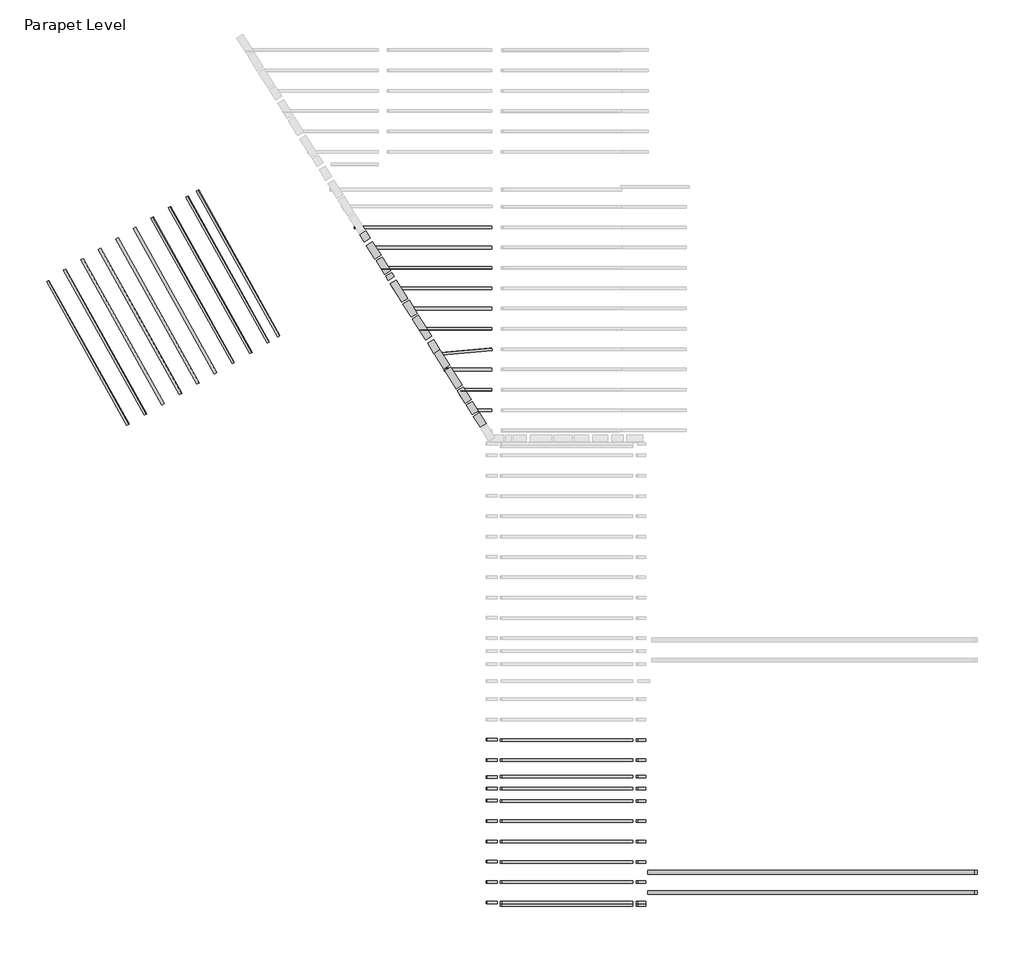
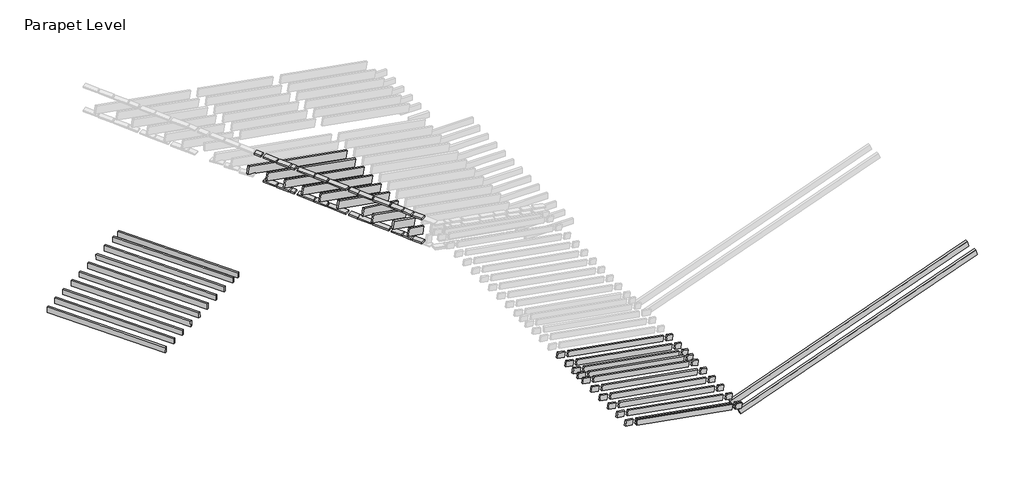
# One storey, part 1 of 4: 79 beams.
"""IFC4 building model written with IfcOpenShell, lengths in millimetres."""

from ifc_helpers import new_model, si_unit, origin, place, context, project, spatial, faceted_brep, transform, mapped, element, save
from components import beam_50x150_21f94889, beam_50x150_4e307baa, beam_50x150_5c7ec585, beam_50x150_e48ab039, beam_50x150_329b2feb, beam_50x150_70297680, beam_50x150_908034af, beam_50x150_4a47f951, beam_50x150_a9835063, beam_50x150_c9c5d9b4, beam_50x150_9a80bcea, beam_50x150_77f3f083, beam_50x225_a9e0d944, beam_50x225_0164bfb9, beam_50x225_bcbebb9e, beam_50x225_e46d5477, beam_50x225_04d71df1, beam_50x225_90cf546c, beam_50x225_c7a64823, beam_50x225_5c907d6b, beam_50x225_0095a40e, beam_50x225_9eec0f42, beam_75x150_3897ce90

model = new_model("IFC4")

# Units and contexts
model_context = context("Model", 3, world=origin())
ifc_project = project(units=[si_unit("LENGTHUNIT", "METRE", prefix="MILLI")], contexts=[model_context])

# Site, building, storey
site = spatial("IfcSite", under=ifc_project)
building = spatial("IfcBuilding", under=site)
storey = spatial("IfcBuildingStorey", under=building, Name="Parapet Level", Elevation=4242.0)

# Beams
placement = place(None, origin())
element("IfcBeam", 1, ObjectType="Graded Timber : 38x140", at=placement, inside=storey, context=model_context, shape_type="Brep", body=[
    faceted_brep([(-34417.5039144, 9675.6573393, 4362.6225826), (-34510.035727, 9823.7391944, 4378.9384377), (-34510.0357271, 9823.7391944, 4340.7729119), (-34417.5039145, 9675.6573393, 4324.4570568), (-34298.7771822, 9749.8460382, 4362.6225826), (-34391.3089948, 9897.9278933, 4378.9384377), (-34391.3089948, 9897.9278933, 4340.7729119), (-34298.7771822, 9749.8460382, 4324.4570568)], [[[0, 1, 2, 3]], [[4, 5, 1, 0]], [[2, 1, 5, 6]], [[3, 2, 6, 7]], [[7, 6, 5, 4]], [[0, 3, 7, 4]]]),
])
element("IfcBeam", 2, ObjectType="Graded Timber : 38x140", at=placement, inside=storey, context=model_context, shape_type="Brep", body=[
    faceted_brep([(-34208.2664344, 9340.8073744, 4325.7283694), (-34377.2300504, 9611.205684, 4355.5212137), (-34377.2300505, 9611.2056839, 4317.3556879), (-34208.2664345, 9340.8073743, 4287.5628436), (-34089.5397022, 9414.9960733, 4325.7283694), (-34258.5033182, 9685.3943829, 4355.5212137), (-34258.5033182, 9685.3943828, 4317.3556879), (-34089.5397022, 9414.9960732, 4287.5628436)], [[[0, 1, 2, 3]], [[4, 5, 1, 0]], [[2, 1, 5, 6]], [[3, 2, 6, 7]], [[7, 6, 5, 4]], [[0, 3, 7, 4]]]),
])
element("IfcBeam", 3, ObjectType="Graded Timber : 38x140", at=placement, inside=storey, context=model_context, shape_type="Brep", body=[
    faceted_brep([(-34019.1126209, 9038.0979944, 4292.3754485), (-34188.1295024, 9308.5815467, 4322.177685), (-34188.1295025, 9308.5815467, 4284.0121592), (-34019.112621, 9038.0979944, 4254.2099227), (-33900.3858886, 9112.2866933, 4292.3754485), (-34069.4027702, 9382.7702456, 4322.177685), (-34069.4027702, 9382.7702456, 4284.0121592), (-33900.3858887, 9112.2866933, 4254.2099227)], [[[0, 1, 2, 3]], [[4, 5, 1, 0]], [[2, 1, 5, 6]], [[3, 2, 6, 7]], [[7, 6, 5, 4]], [[0, 3, 7, 4]]]),
])
element("IfcBeam", 4, ObjectType="Graded Timber : 38x140", at=placement, inside=storey, context=model_context, shape_type="Brep", body=[
    faceted_brep([(-33944.4629109, 8918.6335169, 4279.212693), (-33944.4629109, 8918.6335168, 4241.0471672), (-33825.7361787, 8992.8222157, 4241.0471672), (-33825.7361786, 8992.8222158, 4279.212693), (-33998.9756748, 9005.8721755, 4288.8247641), (-33998.9756749, 9005.8721755, 4250.6592383), (-33880.2489426, 9080.0608744, 4250.6592383), (-33880.2489426, 9080.0608744, 4288.8247641)], [[[0, 1, 2, 3]], [[0, 4, 5, 1]], [[1, 5, 6, 2]], [[2, 6, 7, 3]], [[3, 7, 4, 0]], [[4, 7, 6, 5]]]),
])
element("IfcBeam", 5, ObjectType="Graded Timber : 38x140", at=placement, inside=storey, context=model_context, shape_type="Brep", body=[
    faceted_brep([(-33678.1361047, 8492.4215317, 4232.2520913), (-33904.1875965, 8854.1795405, 4272.1110684), (-33904.1875966, 8854.1795404, 4233.9455426), (-33678.1361048, 8492.4215317, 4194.0865654), (-33559.4093724, 8566.6102306, 4232.2520913), (-33785.4608643, 8928.3682393, 4272.1110684), (-33785.4608643, 8928.3682393, 4233.9455426), (-33559.4093725, 8566.6102306, 4194.0865654)], [[[0, 1, 2, 3]], [[4, 5, 1, 0]], [[2, 1, 5, 6]], [[3, 2, 6, 7]], [[7, 6, 5, 4]], [[0, 3, 7, 4]]]),
])
element("IfcBeam", 6, ObjectType="Graded Timber : 38x140", at=placement, inside=storey, context=model_context, shape_type="Brep", body=[
    faceted_brep([(-33492.6643626, 8195.6046979, 4199.5484189), (-33657.9991727, 8460.1957041, 4228.7014068), (-33657.9991728, 8460.195704, 4190.535881), (-33492.6643626, 8195.6046978, 4161.3828931), (-33373.9376303, 8269.7933968, 4199.5484189), (-33539.2724404, 8534.384403, 4228.7014068), (-33539.2724405, 8534.3844029, 4190.535881), (-33373.9376304, 8269.7933967, 4161.3828931)], [[[0, 1, 2, 3]], [[4, 5, 1, 0]], [[2, 1, 5, 6]], [[3, 2, 6, 7]], [[7, 6, 5, 4]], [[0, 3, 7, 4]]]),
])
element("IfcBeam", 7, ObjectType="Graded Timber : 38x140", at=placement, inside=storey, context=model_context, shape_type="Brep", body=[
    faceted_brep([(-33214.232717, 7750.0209202, 4150.4534074), (-33472.5274306, 8163.3788702, 4195.9977345), (-33472.5274306, 8163.3788701, 4157.8322087), (-33214.232717, 7750.0209201, 4112.2878816), (-33095.5059847, 7824.2096191, 4150.4534074), (-33353.8006983, 8237.5675691, 4195.9977345), (-33353.8006984, 8237.567569, 4157.8322087), (-33095.5059848, 7824.209619, 4112.2878816)], [[[0, 1, 2, 3]], [[4, 5, 1, 0]], [[2, 1, 5, 6]], [[3, 2, 6, 7]], [[7, 6, 5, 4]], [[0, 3, 7, 4]]]),
])
element("IfcBeam", 8, ObjectType="Graded Timber : 38x140", at=placement, inside=storey, context=model_context, shape_type="Brep", body=[
    faceted_brep([(-33049.2562462, 7486.0033768, 4121.3636044), (-33173.958853, 7685.5692648, 4143.3520385), (-33173.958853, 7685.5692648, 4105.1865127), (-33049.2562463, 7486.0033768, 4083.1980786), (-32930.529514, 7560.1920757, 4121.3636044), (-33055.2321207, 7759.7579637, 4143.3520385), (-33055.2321208, 7759.7579637, 4105.1865127), (-32930.529514, 7560.1920757, 4083.1980786)], [[[0, 1, 2, 3]], [[4, 5, 1, 0]], [[2, 1, 5, 6]], [[3, 2, 6, 7]], [[7, 6, 5, 4]], [[0, 3, 7, 4]]]),
])
element("IfcBeam", 9, ObjectType="Graded Timber : 38x140", at=placement, inside=storey, context=model_context, shape_type="Brep", body=[
    faceted_brep([(-32856.7612492, 7177.9469855, 4087.4215427), (-32856.7612492, 7177.9469855, 4049.2560169), (-32738.034517, 7252.1356844, 4049.2560169), (-32738.0345169, 7252.1356844, 4087.4215427), (-33050.0650222, 7487.2976889, 4121.5062134), (-32931.3382886, 7561.4863857, 4121.5062132), (-32933.2117043, 7564.4844774, 4083.6710211), (-33051.9384378, 7490.2957805, 4083.6710213)], [[[0, 1, 2, 3]], [[4, 5, 6, 7]], [[3, 5, 4, 0]], [[2, 6, 5, 3]], [[1, 7, 6, 2]], [[0, 4, 7, 1]]]),
])
element("IfcBeam", 10, ObjectType="Graded Timber : 38x140", at=placement, inside=storey, context=model_context, shape_type="Brep", body=[
    faceted_brep([(-32610.4830604, 6783.8195668, 4043.9960588), (-32836.624285, 7145.721178, 4083.8708582), (-32836.624285, 7145.7211779, 4045.7053324), (-32610.4830605, 6783.8195668, 4005.830533), (-32491.7563281, 6858.0082657, 4043.9960588), (-32717.8975527, 7219.9098769, 4083.8708582), (-32717.8975528, 7219.9098768, 4045.7053324), (-32491.7563282, 6858.0082657, 4005.830533)], [[[0, 1, 2, 3]], [[4, 5, 1, 0]], [[2, 1, 5, 6]], [[3, 2, 6, 7]], [[7, 6, 5, 4]], [[0, 3, 7, 4]]]),
])
element("IfcBeam", 11, ObjectType="Graded Timber : 38x140", at=placement, inside=storey, context=model_context, shape_type="Brep", body=[
    faceted_brep([(-32432.8258006, 6499.5085319, 4012.6702916), (-32590.3461225, 6751.5937428, 4040.4453744), (-32590.3461226, 6751.5937428, 4002.2798486), (-32432.8258006, 6499.5085318, 3974.5047657), (-32314.0990683, 6573.6972308, 4012.6702916), (-32471.6193903, 6825.7824417, 4040.4453744), (-32471.6193903, 6825.7824417, 4002.2798486), (-32314.0990684, 6573.6972307, 3974.5047657)], [[[0, 1, 2, 3]], [[4, 5, 1, 0]], [[2, 1, 5, 6]], [[3, 2, 6, 7]], [[7, 6, 5, 4]], [[0, 3, 7, 4]]]),
])
element("IfcBeam", 12, ObjectType="Graded Timber : 38x140", at=placement, inside=storey, context=model_context, shape_type="Brep", body=[
    faceted_brep([(-32295.0467863, 6279.0160303, 3988.3761349), (-32412.6888627, 6467.2827078, 4009.1196071), (-32412.6888628, 6467.2827078, 3970.9540813), (-32295.0467864, 6279.0160303, 3950.2106091), (-32176.320054, 6353.2047292, 3988.3761349), (-32293.9621305, 6541.4714067, 4009.1196071), (-32293.9621305, 6541.4714067, 3970.9540813), (-32176.3200541, 6353.2047292, 3950.2106091)], [[[0, 1, 2, 3]], [[4, 5, 1, 0]], [[2, 1, 5, 6]], [[3, 2, 6, 7]], [[7, 6, 5, 4]], [[0, 3, 7, 4]]]),
])
element("IfcBeam", 13, ObjectType="Graded Timber : 38x140", at=placement, inside=storey, context=model_context, shape_type="Brep", body=[
    faceted_brep([(-32142.1335343, 6034.303681, 3961.4134035), (-32274.9098505, 6246.790205, 3984.8254505), (-32274.9098505, 6246.790205, 3946.6599247), (-32142.1335344, 6034.303681, 3923.2478777), (-32023.406802, 6108.4923799, 3961.4134035), (-32156.1831182, 6320.9789039, 3984.8254505), (-32156.1831183, 6320.9789039, 3946.6599247), (-32023.4068021, 6108.4923799, 3923.2478777)], [[[0, 1, 2, 3]], [[4, 5, 1, 0]], [[2, 1, 5, 6]], [[3, 2, 6, 7]], [[7, 6, 5, 4]], [[0, 3, 7, 4]]]),
])
element("IfcBeam", 14, ObjectType="Graded Timber : 38x140", at=placement, inside=storey, context=model_context, shape_type="Brep", body=[
    faceted_brep([(-34208.2665071, 9340.807329, 3635.8694326), (-34377.2301231, 9611.2056386, 3665.662277), (-34377.2301231, 9611.2056386, 3627.4967512), (-34208.2665071, 9340.807329, 3597.7039068), (-34089.5397748, 9414.9960279, 3635.8694326), (-34258.5033908, 9685.3943375, 3665.662277), (-34258.5033908, 9685.3943375, 3627.4967512), (-34089.5397748, 9414.9960279, 3597.7039068)], [[[0, 1, 2, 3]], [[4, 5, 1, 0]], [[2, 1, 5, 6]], [[3, 2, 6, 7]], [[7, 6, 5, 4]], [[0, 3, 7, 4]]]),
])
element("IfcBeam", 15, ObjectType="Graded Timber : 38x140", at=placement, inside=storey, context=model_context, shape_type="Brep", body=[
    faceted_brep([(-34019.1126935, 9038.097949, 3602.5165117), (-34188.1295751, 9308.5815013, 3632.3187482), (-34188.1295751, 9308.5815013, 3594.1532224), (-34019.1126936, 9038.097949, 3564.3509859), (-33900.3859613, 9112.2866479, 3602.5165117), (-34069.4028428, 9382.7702002, 3632.3187482), (-34069.4028428, 9382.7702002, 3594.1532224), (-33900.3859613, 9112.2866479, 3564.3509859)], [[[0, 1, 2, 3]], [[4, 5, 1, 0]], [[2, 1, 5, 6]], [[3, 2, 6, 7]], [[7, 6, 5, 4]], [[0, 3, 7, 4]]]),
])
element("IfcBeam", 16, ObjectType="Graded Timber : 38x140", at=placement, inside=storey, context=model_context, shape_type="Brep", body=[
    faceted_brep([(-33944.4629976, 8918.6334627, 3589.3537562), (-33998.9750363, 9005.8709608, 3598.9656995), (-33998.9750364, 9005.8709608, 3560.8001736), (-33944.4629976, 8918.6334627, 3551.1882304), (-33825.7362653, 8992.8221616, 3589.3537562), (-33880.2483041, 9080.0596597, 3598.9656995), (-33880.2483041, 9080.0596597, 3560.8001736), (-33825.7362654, 8992.8221616, 3551.1882304)], [[[0, 1, 2, 3]], [[4, 5, 1, 0]], [[2, 1, 5, 6]], [[3, 2, 6, 7]], [[7, 6, 5, 4]], [[0, 3, 7, 4]]]),
])
element("IfcBeam", 17, ObjectType="Graded Timber : 38x140", at=placement, inside=storey, context=model_context, shape_type="Brep", body=[
    faceted_brep([(-33678.1361914, 8492.4214776, 3542.3931545), (-33904.1876832, 8854.1794863, 3582.2521316), (-33904.1876833, 8854.1794863, 3544.0866058), (-33678.1361914, 8492.4214775, 3504.2276287), (-33559.4094591, 8566.6101765, 3542.3931545), (-33785.4609509, 8928.3681852, 3582.2521316), (-33785.460951, 8928.3681851, 3544.0866058), (-33559.4094592, 8566.6101764, 3504.2276287)], [[[0, 1, 2, 3]], [[4, 5, 1, 0]], [[2, 1, 5, 6]], [[3, 2, 6, 7]], [[7, 6, 5, 4]], [[0, 3, 7, 4]]]),
])
element("IfcBeam", 18, ObjectType="Graded Timber : 38x140", at=placement, inside=storey, context=model_context, shape_type="Brep", body=[
    faceted_brep([(-33492.6644493, 8195.6046437, 3509.6894822), (-33657.9992594, 8460.1956499, 3538.8424701), (-33657.9992594, 8460.1956499, 3500.6769443), (-33492.6644493, 8195.6046437, 3471.5239564), (-33373.937717, 8269.7933426, 3509.6894822), (-33539.2725271, 8534.3843488, 3538.8424701), (-33539.2725272, 8534.3843488, 3500.6769443), (-33373.9377171, 8269.7933426, 3471.5239564)], [[[0, 1, 2, 3]], [[4, 5, 1, 0]], [[2, 1, 5, 6]], [[3, 2, 6, 7]], [[7, 6, 5, 4]], [[0, 3, 7, 4]]]),
])
element("IfcBeam", 19, ObjectType="Graded Timber : 38x140", at=placement, inside=storey, context=model_context, shape_type="Brep", body=[
    faceted_brep([(-33214.2328037, 7750.020866, 3460.5944707), (-33472.5275173, 8163.378816, 3506.1387977), (-33472.5275173, 8163.378816, 3467.9732719), (-33214.2328037, 7750.020866, 3422.4289448), (-33095.5060714, 7824.2095649, 3460.5944707), (-33353.800785, 8237.5675149, 3506.1387977), (-33353.8007851, 8237.5675149, 3467.9732719), (-33095.5060714, 7824.2095649, 3422.4289448)], [[[0, 1, 2, 3]], [[4, 5, 1, 0]], [[2, 1, 5, 6]], [[3, 2, 6, 7]], [[7, 6, 5, 4]], [[0, 3, 7, 4]]]),
])
element("IfcBeam", 20, ObjectType="Graded Timber : 38x140", at=placement, inside=storey, context=model_context, shape_type="Brep", body=[
    faceted_brep([(-33049.2563329, 7486.0033227, 3431.5046676), (-33173.9589397, 7685.5692106, 3453.4931018), (-33173.9589397, 7685.5692106, 3415.327576), (-33049.256333, 7486.0033226, 3393.3391418), (-32930.5296007, 7560.1920216, 3431.5046676), (-33055.2322074, 7759.7579095, 3453.4931018), (-33055.2322074, 7759.7579095, 3415.327576), (-32930.5296007, 7560.1920215, 3393.3391418)], [[[0, 1, 2, 3]], [[4, 5, 1, 0]], [[2, 1, 5, 6]], [[3, 2, 6, 7]], [[7, 6, 5, 4]], [[0, 3, 7, 4]]]),
])
element("IfcBeam", 21, ObjectType="Graded Timber : 38x140", at=placement, inside=storey, context=model_context, shape_type="Brep", body=[
    faceted_brep([(-32856.7613359, 7177.9469314, 3397.5626059), (-32856.7613359, 7177.9469313, 3359.3970801), (-32738.0346037, 7252.1356302, 3359.3970801), (-32738.0346036, 7252.1356303, 3397.5626059), (-33050.3287447, 7487.7195403, 3431.6937628), (-32931.6020112, 7561.9082371, 3431.6937625), (-32933.4754268, 7564.9063288, 3393.8585704), (-33052.2021604, 7490.7176319, 3393.8585707)], [[[0, 1, 2, 3]], [[4, 5, 6, 7]], [[3, 5, 4, 0]], [[2, 6, 5, 3]], [[1, 7, 6, 2]], [[0, 4, 7, 1]]]),
])
element("IfcBeam", 22, ObjectType="Graded Timber : 38x140", at=placement, inside=storey, context=model_context, shape_type="Brep", body=[
    faceted_brep([(-32610.4831793, 6783.8194925, 3354.1371221), (-32836.6244039, 7145.7211037, 3394.0119215), (-32836.6244039, 7145.7211036, 3355.8463957), (-32610.4831793, 6783.8194925, 3315.9715963), (-32491.756447, 6858.0081914, 3354.1371221), (-32717.8976716, 7219.9098026, 3394.0119215), (-32717.8976717, 7219.9098025, 3355.8463957), (-32491.7564471, 6858.0081914, 3315.9715963)], [[[0, 1, 2, 3]], [[4, 5, 1, 0]], [[2, 1, 5, 6]], [[3, 2, 6, 7]], [[7, 6, 5, 4]], [[0, 3, 7, 4]]]),
])
element("IfcBeam", 23, ObjectType="Graded Timber : 38x140", at=placement, inside=storey, context=model_context, shape_type="Brep", body=[
    faceted_brep([(-32432.8259253, 6499.5084539, 3322.8113548), (-32570.2093153, 6719.3678372, 3347.0357532), (-32570.2093153, 6719.3678371, 3308.8702274), (-32432.8259254, 6499.5084539, 3284.645829), (-32314.0991931, 6573.6971528, 3322.8113548), (-32451.482583, 6793.5565361, 3347.0357532), (-32451.4825831, 6793.556536, 3308.8702274), (-32314.0991931, 6573.6971528, 3284.645829)], [[[0, 1, 2, 3]], [[4, 5, 1, 0]], [[2, 1, 5, 6]], [[3, 2, 6, 7]], [[7, 6, 5, 4]], [[0, 3, 7, 4]]]),
])
element("IfcBeam", 24, ObjectType="Graded Timber : 38x140", at=placement, inside=storey, context=model_context, shape_type="Brep", body=[
    faceted_brep([(-32295.0469169, 6279.0159487, 3298.5171982), (-32412.6889933, 6467.2826262, 3319.2606704), (-32412.6889934, 6467.2826262, 3281.0951446), (-32295.046917, 6279.0159487, 3260.3516724), (-32176.3201846, 6353.2046476, 3298.5171982), (-32293.9622611, 6541.4713251, 3319.2606704), (-32293.9622611, 6541.4713251, 3281.0951446), (-32176.3201847, 6353.2046476, 3260.3516724)], [[[0, 1, 2, 3]], [[4, 5, 1, 0]], [[2, 1, 5, 6]], [[3, 2, 6, 7]], [[7, 6, 5, 4]], [[0, 3, 7, 4]]]),
])
element("IfcBeam", 25, ObjectType="Graded Timber : 38x140", at=placement, inside=storey, context=model_context, shape_type="Brep", body=[
    faceted_brep([(-32142.1336687, 6034.303597, 3271.5544668), (-32274.9099849, 6246.7901211, 3294.9665138), (-32274.909985, 6246.790121, 3256.800988), (-32142.1336688, 6034.303597, 3233.388941), (-32023.4069364, 6108.4922959, 3271.5544668), (-32156.1832526, 6320.9788199, 3294.9665138), (-32156.1832527, 6320.9788199, 3256.800988), (-32023.4069365, 6108.4922959, 3233.388941)], [[[0, 1, 2, 3]], [[4, 5, 1, 0]], [[2, 1, 5, 6]], [[3, 2, 6, 7]], [[7, 6, 5, 4]], [[0, 3, 7, 4]]]),
])
beam_50x150_shape = beam_50x150_21f94889(model_context)
element("IfcBeam", 26, ObjectType="Graded Timber : 50x150", at=placement, inside=storey, context=model_context, shape_type="MappedRepresentation", body=[
    mapped(beam_50x150_shape, transform((-28977.5853912, -3321.212829, 3183.5980861), x_axis=(0.9848077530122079, 0.0, -0.17364817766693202), y_axis=(0.0, 1.0000000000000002, 0.0), z_axis=(0.17364817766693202, 0.0, 0.9848077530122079))),
])
element("IfcBeam", 27, ObjectType="Graded Timber : 50x150", at=placement, inside=storey, context=model_context, shape_type="MappedRepresentation", body=[
    mapped(beam_50x150_shape, transform((-28977.5849903, -2921.212829, 3183.5980154), x_axis=(0.9848077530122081, 0.0, -0.17364817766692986), y_axis=(0.0, 1.0, 0.0), z_axis=(0.17364817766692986, 0.0, 0.9848077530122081))),
])
element("IfcBeam", 28, ObjectType="Graded Timber : 50x150", at=placement, inside=storey, context=model_context, shape_type="MappedRepresentation", body=[
    mapped(beam_50x150_shape, transform((-28977.5845894, -2521.212829, 3183.5979447), x_axis=(0.9848077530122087, 0.0, -0.1736481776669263), y_axis=(0.0, 1.0, 0.0), z_axis=(0.17364817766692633, 0.0, 0.9848077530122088))),
])
element("IfcBeam", 29, ObjectType="Graded Timber : 50x150", at=placement, inside=storey, context=model_context, shape_type="MappedRepresentation", body=[
    mapped(beam_50x150_shape, transform((-28977.5841885, -2121.212829, 3183.597874), x_axis=(0.9848077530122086, 0.0, -0.1736481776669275), y_axis=(0.0, 1.0, 0.0), z_axis=(0.1736481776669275, 0.0, 0.9848077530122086))),
])
element("IfcBeam", 30, ObjectType="Graded Timber : 50x150", at=placement, inside=storey, context=model_context, shape_type="MappedRepresentation", body=[
    mapped(beam_50x150_shape, transform((-28977.5837876, -1721.212829, 3183.5978033), x_axis=(0.9848077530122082, 0.0, -0.17364817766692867), y_axis=(0.0, 0.9999999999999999, 0.0), z_axis=(0.17364817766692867, 0.0, 0.9848077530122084))),
])
element("IfcBeam", 31, ObjectType="Graded Timber : 50x150", at=placement, inside=storey, context=model_context, shape_type="MappedRepresentation", body=[
    mapped(beam_50x150_shape, transform((-28977.5833866, -1321.212829, 3183.5977326), x_axis=(0.9848077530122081, 0.0, -0.17364817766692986), y_axis=(0.0, 1.0, 0.0), z_axis=(0.17364817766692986, 0.0, 0.9848077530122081))),
])
element("IfcBeam", 32, ObjectType="Graded Timber : 50x150", at=placement, inside=storey, context=model_context, shape_type="MappedRepresentation", body=[
    mapped(beam_50x150_shape, transform((-28977.5829857, -846.212829, 3183.5976619), x_axis=(0.984807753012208, 0.0, -0.17364817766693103), y_axis=(0.0, 1.0000000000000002, 0.0), z_axis=(0.17364817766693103, 0.0, 0.984807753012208))),
])
element("IfcBeam", 33, ObjectType="Graded Timber : 50x150", at=placement, inside=storey, context=model_context, shape_type="MappedRepresentation", body=[
    mapped(beam_50x150_shape, transform((-28977.5825848, -521.212829, 3183.5975912), x_axis=(0.9848077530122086, 0.0, -0.1736481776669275), y_axis=(0.0, 1.0, 0.0), z_axis=(0.1736481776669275, 0.0, 0.9848077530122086))),
])
element("IfcBeam", 34, ObjectType="Graded Timber : 50x150", at=placement, inside=storey, context=model_context, shape_type="MappedRepresentation", body=[
    mapped(beam_50x150_shape, transform((-28977.5821839, -121.212829, 3183.5975206), x_axis=(0.9848077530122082, 0.0, -0.17364817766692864), y_axis=(0.0, 0.9999999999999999, 0.0), z_axis=(0.17364817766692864, 0.0, 0.9848077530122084))),
])
element("IfcBeam", 35, ObjectType="Graded Timber : 50x150", at=placement, inside=storey, context=model_context, shape_type="MappedRepresentation", body=[
    mapped(beam_50x150_shape, transform((-28977.5829857, -1081.212829, 3183.5976619), x_axis=(0.984807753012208, 0.0, -0.17364817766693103), y_axis=(0.0, 1.0000000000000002, 0.0), z_axis=(0.17364817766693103, 0.0, 0.984807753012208))),
])
element("IfcBeam", 36, ObjectType="Graded Timber : 50x150", at=placement, inside=storey, context=model_context, shape_type="MappedRepresentation", body=[
    mapped(beam_50x150_shape, transform((-28977.5853912, -3371.212829, 3183.5980861), x_axis=(0.9848077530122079, 0.0, -0.17364817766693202), y_axis=(0.0, 1.0000000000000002, 0.0), z_axis=(0.17364817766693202, 0.0, 0.9848077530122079))),
])
beam_50x150_2_shape = beam_50x150_4e307baa(model_context)
element("IfcBeam", 37, ObjectType="Graded Timber : 50x150", at=placement, inside=storey, context=model_context, shape_type="MappedRepresentation", body=[
    mapped(beam_50x150_2_shape, transform((-31915.7468054, -3319.486229, 3701.6752171), x_axis=(0.9848077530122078, 0.0, -0.1736481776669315), y_axis=(0.0, 1.0, 0.0), z_axis=(0.17364817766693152, 0.0, 0.9848077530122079))),
])
element("IfcBeam", 38, ObjectType="Graded Timber : 50x150", at=placement, inside=storey, context=model_context, shape_type="MappedRepresentation", body=[
    mapped(beam_50x150_2_shape, transform((-31915.7468054, -2919.486229, 3701.6752171), x_axis=(0.9848077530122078, 0.0, -0.1736481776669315), y_axis=(0.0, 1.0, 0.0), z_axis=(0.17364817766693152, 0.0, 0.9848077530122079))),
])
element("IfcBeam", 39, ObjectType="Graded Timber : 50x150", at=placement, inside=storey, context=model_context, shape_type="MappedRepresentation", body=[
    mapped(beam_50x150_2_shape, transform((-31915.7468054, -2519.486229, 3701.6752171), x_axis=(0.9848077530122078, 0.0, -0.1736481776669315), y_axis=(0.0, 1.0, 0.0), z_axis=(0.17364817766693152, 0.0, 0.9848077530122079))),
])
element("IfcBeam", 40, ObjectType="Graded Timber : 50x150", at=placement, inside=storey, context=model_context, shape_type="MappedRepresentation", body=[
    mapped(beam_50x150_2_shape, transform((-31915.7468054, -2119.486229, 3701.6752171), x_axis=(0.9848077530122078, 0.0, -0.1736481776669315), y_axis=(0.0, 1.0, 0.0), z_axis=(0.17364817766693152, 0.0, 0.9848077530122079))),
])
element("IfcBeam", 41, ObjectType="Graded Timber : 50x150", at=placement, inside=storey, context=model_context, shape_type="MappedRepresentation", body=[
    mapped(beam_50x150_2_shape, transform((-31915.7468054, -1719.486229, 3701.6752171), x_axis=(0.9848077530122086, 0.0, -0.17364817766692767), y_axis=(0.0, 1.0, 0.0), z_axis=(0.17364817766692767, 0.0, 0.9848077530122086))),
])
element("IfcBeam", 42, ObjectType="Graded Timber : 50x150", at=placement, inside=storey, context=model_context, shape_type="MappedRepresentation", body=[
    mapped(beam_50x150_2_shape, transform((-31915.7468054, -1319.486229, 3701.6752171), x_axis=(0.9848077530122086, 0.0, -0.17364817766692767), y_axis=(0.0, 1.0, 0.0), z_axis=(0.17364817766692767, 0.0, 0.9848077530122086))),
])
element("IfcBeam", 43, ObjectType="Graded Timber : 50x150", at=placement, inside=storey, context=model_context, shape_type="MappedRepresentation", body=[
    mapped(beam_50x150_2_shape, transform((-31915.7468054, -849.486229, 3701.6752171), x_axis=(0.9848077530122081, 0.0, -0.1736481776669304), y_axis=(0.0, 1.0000000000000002, 0.0), z_axis=(0.1736481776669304, 0.0, 0.9848077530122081))),
])
element("IfcBeam", 44, ObjectType="Graded Timber : 50x150", at=placement, inside=storey, context=model_context, shape_type="MappedRepresentation", body=[
    mapped(beam_50x150_2_shape, transform((-31915.7468054, -519.486229, 3701.6752171), x_axis=(0.9848077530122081, 0.0, -0.1736481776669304), y_axis=(0.0, 1.0000000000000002, 0.0), z_axis=(0.1736481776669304, 0.0, 0.9848077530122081))),
])
element("IfcBeam", 45, ObjectType="Graded Timber : 50x150", at=placement, inside=storey, context=model_context, shape_type="MappedRepresentation", body=[
    mapped(beam_50x150_2_shape, transform((-31915.7468054, -119.486229, 3701.6752171), x_axis=(0.9848077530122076, 0.0, -0.1736481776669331), y_axis=(0.0, 1.0, 0.0), z_axis=(0.1736481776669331, 0.0, 0.9848077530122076))),
])
element("IfcBeam", 46, ObjectType="Graded Timber : 50x150", at=placement, inside=storey, context=model_context, shape_type="MappedRepresentation", body=[
    mapped(beam_50x150_2_shape, transform((-31915.7468054, -1079.486229, 3701.6752171), x_axis=(0.9848077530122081, 0.0, -0.1736481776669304), y_axis=(0.0, 1.0000000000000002, 0.0), z_axis=(0.1736481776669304, 0.0, 0.9848077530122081))),
])
beam_50x150_3_shape = beam_50x150_5c7ec585(model_context)
element("IfcBeam", 47, ObjectType="Graded Timber : 50x150", at=placement, inside=storey, context=model_context, shape_type="MappedRepresentation", body=[
    mapped(beam_50x150_3_shape, transform((-30439.4388349, -3321.212829, 3441.36229), x_axis=(0.9848077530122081, 0.0, -0.1736481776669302), y_axis=(0.0, 1.0, 0.0), z_axis=(0.1736481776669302, 0.0, 0.9848077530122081))),
])
element("IfcBeam", 48, ObjectType="Graded Timber : 50x150", at=placement, inside=storey, context=model_context, shape_type="MappedRepresentation", body=[
    mapped(beam_50x150_3_shape, transform((-30439.4384588, -2921.212829, 3441.3622237), x_axis=(0.984807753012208, 0.0, -0.17364817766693), y_axis=(0.0, 0.9999999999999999, 0.0), z_axis=(0.17364817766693, 0.0, 0.9848077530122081))),
])
element("IfcBeam", 49, ObjectType="Graded Timber : 50x150", at=placement, inside=storey, context=model_context, shape_type="MappedRepresentation", body=[
    mapped(beam_50x150_3_shape, transform((-30439.4380827, -2521.212829, 3441.3621574), x_axis=(0.984807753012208, 0.0, -0.1736481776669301), y_axis=(0.0, 1.0, 0.0), z_axis=(0.17364817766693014, 0.0, 0.9848077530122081))),
])
element("IfcBeam", 50, ObjectType="Graded Timber : 50x150", at=placement, inside=storey, context=model_context, shape_type="MappedRepresentation", body=[
    mapped(beam_50x150_3_shape, transform((-30439.4377066, -2121.212829, 3441.3620911), x_axis=(0.9848077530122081, 0.0, -0.17364817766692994), y_axis=(0.0, 1.0, 0.0), z_axis=(0.17364817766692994, 0.0, 0.9848077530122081))),
])
element("IfcBeam", 51, ObjectType="Graded Timber : 50x150", at=placement, inside=storey, context=model_context, shape_type="MappedRepresentation", body=[
    mapped(beam_50x150_3_shape, transform((-30439.4373305, -1721.212829, 3441.3620248), x_axis=(0.9848077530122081, 0.0, -0.17364817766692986), y_axis=(0.0, 1.0, 0.0), z_axis=(0.17364817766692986, 0.0, 0.9848077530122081))),
])
element("IfcBeam", 52, ObjectType="Graded Timber : 50x150", at=placement, inside=storey, context=model_context, shape_type="MappedRepresentation", body=[
    mapped(beam_50x150_3_shape, transform((-30439.4369543, -1321.212829, 3441.3619584), x_axis=(0.9848077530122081, 0.0, -0.17364817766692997), y_axis=(0.0, 1.0, 0.0), z_axis=(0.17364817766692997, 0.0, 0.9848077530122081))),
])
element("IfcBeam", 53, ObjectType="Graded Timber : 50x150", at=placement, inside=storey, context=model_context, shape_type="MappedRepresentation", body=[
    mapped(beam_50x150_3_shape, transform((-30439.4365782, -846.212829, 3441.3618921), x_axis=(0.9848077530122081, 0.0, -0.17364817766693), y_axis=(0.0, 1.0, 0.0), z_axis=(0.17364817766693, 0.0, 0.9848077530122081))),
])
element("IfcBeam", 54, ObjectType="Graded Timber : 50x150", at=placement, inside=storey, context=model_context, shape_type="MappedRepresentation", body=[
    mapped(beam_50x150_3_shape, transform((-30439.4362021, -521.212829, 3441.3618258), x_axis=(0.984807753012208, 0.0, -0.17364817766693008), y_axis=(0.0, 0.9999999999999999, 0.0), z_axis=(0.1736481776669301, 0.0, 0.9848077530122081))),
])
element("IfcBeam", 55, ObjectType="Graded Timber : 50x150", at=placement, inside=storey, context=model_context, shape_type="MappedRepresentation", body=[
    mapped(beam_50x150_3_shape, transform((-30439.435826, -121.212829, 3441.3617595), x_axis=(0.9848077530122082, 0.0, -0.17364817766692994), y_axis=(0.0, 1.0000000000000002, 0.0), z_axis=(0.17364817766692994, 0.0, 0.9848077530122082))),
])
element("IfcBeam", 56, ObjectType="Graded Timber : 50x150", at=placement, inside=storey, context=model_context, shape_type="MappedRepresentation", body=[
    mapped(beam_50x150_3_shape, transform((-30439.4388349, -3371.212829, 3441.36229), x_axis=(0.9848077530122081, 0.0, -0.1736481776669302), y_axis=(0.0, 1.0, 0.0), z_axis=(0.1736481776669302, 0.0, 0.9848077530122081))),
])
element("IfcBeam", 57, ObjectType="Graded Timber : 50x150", at=placement, inside=storey, context=model_context, shape_type="MappedRepresentation", body=[
    mapped(beam_50x150_3_shape, transform((-30439.4365782, -1081.212829, 3441.3618921), x_axis=(0.9848077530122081, 0.0, -0.17364817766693), y_axis=(0.0, 1.0, 0.0), z_axis=(0.17364817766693, 0.0, 0.9848077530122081))),
])
beam_50x150_4_shape = beam_50x150_e48ab039(model_context)
element("IfcBeam", 58, ObjectType="Graded Timber : 50x150", at=placement, inside=storey, context=model_context, shape_type="MappedRepresentation", body=[
    mapped(beam_50x150_4_shape, transform((-39518.724869, 7709.2352311, 2599.4148867), x_axis=(-0.4871065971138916, 0.8733420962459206, 0.0008636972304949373), y_axis=(-0.8732183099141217, -0.48702040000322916, -0.017346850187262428), z_axis=(-0.014729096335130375, -0.009203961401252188, 0.9998491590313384))),
])
beam_50x150_5_shape = beam_50x150_329b2feb(model_context)
element("IfcBeam", 59, ObjectType="Graded Timber : 50x150", at=placement, inside=storey, context=model_context, shape_type="MappedRepresentation", body=[
    mapped(beam_50x150_5_shape, transform((-38829.9913997, 8116.4959754, 2613.3098164), x_axis=(-0.4871065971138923, 0.8733420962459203, 0.0008636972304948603), y_axis=(-0.8732183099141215, -0.48702040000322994, -0.01734685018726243), z_axis=(-0.014729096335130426, -0.0092039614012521, 0.9998491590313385))),
])
beam_50x150_6_shape = beam_50x150_70297680(model_context)
element("IfcBeam", 60, ObjectType="Graded Timber : 50x150", at=placement, inside=storey, context=model_context, shape_type="MappedRepresentation", body=[
    mapped(beam_50x150_6_shape, transform((-38485.624665, 8320.1263476, 2620.2572813), x_axis=(-0.48710659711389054, 0.8733420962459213, 0.0008636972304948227), y_axis=(-0.8732183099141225, -0.48702040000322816, -0.017346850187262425), z_axis=(-0.014729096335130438, -0.00920396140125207, 0.9998491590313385))),
])
beam_50x150_7_shape = beam_50x150_908034af(model_context)
element("IfcBeam", 61, ObjectType="Graded Timber : 50x150", at=placement, inside=storey, context=model_context, shape_type="MappedRepresentation", body=[
    mapped(beam_50x150_7_shape, transform((-38141.2579303, 8523.7567198, 2627.2047461), x_axis=(-0.4871065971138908, 0.8733420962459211, 0.0008636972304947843), y_axis=(-0.8732183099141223, -0.48702040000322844, -0.017346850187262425), z_axis=(-0.014729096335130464, -0.009203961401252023, 0.9998491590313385))),
])
beam_50x150_8_shape = beam_50x150_4a47f951(model_context)
element("IfcBeam", 62, ObjectType="Graded Timber : 50x150", at=placement, inside=storey, context=model_context, shape_type="MappedRepresentation", body=[
    mapped(beam_50x150_8_shape, transform((-37796.8911956, 8727.387092, 2634.152211), x_axis=(-0.48710659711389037, 0.8733420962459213, 0.0008636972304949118), y_axis=(-0.8732183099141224, -0.48702040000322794, -0.017346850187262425), z_axis=(-0.014729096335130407, -0.009203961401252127, 0.9998491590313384))),
])
beam_50x150_9_shape = beam_50x150_a9835063(model_context)
element("IfcBeam", 63, ObjectType="Graded Timber : 50x150", at=placement, inside=storey, context=model_context, shape_type="MappedRepresentation", body=[
    mapped(beam_50x150_9_shape, transform((-37108.1577262, 9134.6478363, 2648.0471407), x_axis=(-0.4871065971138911, 0.873342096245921, 0.0008636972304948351), y_axis=(-0.8732183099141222, -0.4870204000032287, -0.017346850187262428), z_axis=(-0.01472909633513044, -0.009203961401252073, 0.9998491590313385))),
])
element("IfcBeam", 64, ObjectType="Graded Timber : 50x150", at=placement, inside=storey, context=model_context, shape_type="MappedRepresentation", body=[
    mapped(beam_50x150_9_shape, transform((-36901.0778671, 9255.8937468, 2652.2138111), x_axis=(-0.4871065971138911, 0.873342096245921, 0.0008636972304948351), y_axis=(-0.8732183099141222, -0.4870204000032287, -0.017346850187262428), z_axis=(-0.01472909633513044, -0.009203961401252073, 0.9998491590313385))),
])
beam_50x150_10_shape = beam_50x150_c9c5d9b4(model_context)
element("IfcBeam", 65, ObjectType="Graded Timber : 50x150", at=placement, inside=storey, context=model_context, shape_type="MappedRepresentation", body=[
    mapped(beam_50x150_10_shape, transform((-39857.4897301, 7495.5611599, 2592.4574891), x_axis=(-0.48710659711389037, 0.8733420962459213, 0.000863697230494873), y_axis=(-0.8732183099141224, -0.48702040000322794, -0.017346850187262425), z_axis=(-0.014729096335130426, -0.009203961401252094, 0.9998491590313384))),
])
beam_50x150_11_shape = beam_50x150_9a80bcea(model_context)
element("IfcBeam", 66, ObjectType="Graded Timber : 50x150", at=placement, inside=storey, context=model_context, shape_type="MappedRepresentation", body=[
    mapped(beam_50x150_11_shape, transform((-39174.3581344, 7912.8656033, 2606.3623516), x_axis=(-0.48710659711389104, 0.873342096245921, 0.0008636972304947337), y_axis=(-0.8732183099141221, -0.4870204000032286, -0.017346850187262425), z_axis=(-0.014729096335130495, -0.009203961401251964, 0.9998491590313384))),
])
beam_50x150_12_shape = beam_50x150_77f3f083(model_context)
element("IfcBeam", 67, ObjectType="Graded Timber : 50x150", at=placement, inside=storey, context=model_context, shape_type="MappedRepresentation", body=[
    mapped(beam_50x150_12_shape, transform((-37452.5244609, 8931.0174641, 2641.0996759), x_axis=(-0.48710659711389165, 0.8733420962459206, 0.0008636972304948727), y_axis=(-0.8732183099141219, -0.48702040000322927, -0.017346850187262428), z_axis=(-0.014729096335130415, -0.009203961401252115, 0.9998491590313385))),
])
beam_50x225_shape = beam_50x225_a9e0d944(model_context)
element("IfcBeam", 68, ObjectType="Graded Timber : 50x225", at=placement, inside=storey, context=model_context, shape_type="MappedRepresentation", body=[
    mapped(beam_50x225_shape, transform((-32117.4070824, 6366.9830721, 3401.9141869), x_axis=(0.9848083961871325, 0.0, -0.17364453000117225), y_axis=(-0.00019845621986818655, 0.9999993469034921, -0.001125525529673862), z_axis=(0.1736444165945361, 0.0011428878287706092, 0.984807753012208))),
])
beam_50x225_2_shape = beam_50x225_0164bfb9(model_context)
element("IfcBeam", 69, ObjectType="Graded Timber : 50x225", at=placement, inside=storey, context=model_context, shape_type="MappedRepresentation", body=[
    mapped(beam_50x225_2_shape, transform((-32617.6194692, 7966.9820271, 3488.2563877), x_axis=(0.9848083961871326, 0.0, -0.17364453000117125), y_axis=(-0.00019845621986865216, 0.9999993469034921, -0.00112552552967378), z_axis=(0.1736444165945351, 0.0011428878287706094, 0.9848077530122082))),
])
beam_50x225_3_shape = beam_50x225_bcbebb9e(model_context)
element("IfcBeam", 70, ObjectType="Graded Timber : 50x225", at=placement, inside=storey, context=model_context, shape_type="MappedRepresentation", body=[
    mapped(beam_50x225_3_shape, transform((-32742.6725659, 8366.9817659, 3509.8419379), x_axis=(0.9848083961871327, 0.0, -0.17364453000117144), y_axis=(-0.000198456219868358, 0.9999993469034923, -0.001125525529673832), z_axis=(0.1736444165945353, 0.0011428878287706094, 0.9848077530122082))),
])
beam_50x225_4_shape = beam_50x225_e46d5477(model_context)
element("IfcBeam", 71, ObjectType="Graded Timber : 50x225", at=placement, inside=storey, context=model_context, shape_type="MappedRepresentation", body=[
    mapped(beam_50x225_4_shape, transform((-32992.7787594, 9166.9812434, 3553.0130383), x_axis=(0.9848083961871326, 0.0, -0.17364453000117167), y_axis=(-0.00019845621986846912, 0.9999993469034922, -0.0011255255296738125), z_axis=(0.17364441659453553, 0.0011428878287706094, 0.9848077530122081))),
])
beam_50x225_5_shape = beam_50x225_04d71df1(model_context)
element("IfcBeam", 72, ObjectType="Graded Timber : 50x225", at=placement, inside=storey, context=model_context, shape_type="MappedRepresentation", body=[
    mapped(beam_50x225_5_shape, transform((-33117.8318561, 9566.9809821, 3574.5985885), x_axis=(0.9848083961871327, 0.0, -0.17364453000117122), y_axis=(-0.0001984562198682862, 0.9999993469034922, -0.0011255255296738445), z_axis=(0.17364441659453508, 0.0011428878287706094, 0.9848077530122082))),
])
beam_50x225_6_shape = beam_50x225_90cf546c(model_context)
element("IfcBeam", 73, ObjectType="Graded Timber : 50x225", at=placement, inside=storey, context=model_context, shape_type="MappedRepresentation", body=[
    mapped(beam_50x225_6_shape, transform((-33242.8849528, 9966.9807209, 3596.1841387), x_axis=(0.9848083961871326, 0.0, -0.17364453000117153), y_axis=(-0.00019845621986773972, 0.9999993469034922, -0.001125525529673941), z_axis=(0.1736444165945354, 0.0011428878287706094, 0.9848077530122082))),
])
beam_50x225_7_shape = beam_50x225_c7a64823(model_context)
element("IfcBeam", 74, ObjectType="Graded Timber : 50x225", at=placement, inside=storey, context=model_context, shape_type="MappedRepresentation", body=[
    mapped(beam_50x225_7_shape, transform((-32867.7256626, 8766.9815046, 3531.4274881), x_axis=(0.9848083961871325, 0.0, -0.17364453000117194), y_axis=(-0.00019845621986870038, 0.9999993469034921, -0.0011255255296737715), z_axis=(0.1736444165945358, 0.0011428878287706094, 0.9848077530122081))),
])
beam_50x225_8_shape = beam_50x225_5c907d6b(model_context)
element("IfcBeam", 75, ObjectType="Graded Timber : 50x225", at=placement, inside=storey, context=model_context, shape_type="MappedRepresentation", body=[
    mapped(beam_50x225_8_shape, transform((-32367.5132758, 7166.9825496, 3445.0852873), x_axis=(0.9848083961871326, 0.0, -0.1736445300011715), y_axis=(-0.0001984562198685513, 0.9999993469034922, -0.001125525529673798), z_axis=(0.17364441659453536, 0.0011428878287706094, 0.9848077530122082))),
])
beam_50x225_9_shape = beam_50x225_0095a40e(model_context)
element("IfcBeam", 76, ObjectType="Graded Timber : 50x225", at=placement, inside=storey, context=model_context, shape_type="MappedRepresentation", body=[
    mapped(beam_50x225_9_shape, transform((-32240.2172521, 6767.047053, 3423.1041826), x_axis=(0.9848084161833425, -0.0002015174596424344, -0.1736442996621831), y_axis=(0.0, 0.9999993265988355, -0.0011605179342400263), z_axis=(0.17364441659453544, 0.0011428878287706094, 0.9848077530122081))),
])
beam_50x225_10_shape = beam_50x225_9eec0f42(model_context)
element("IfcBeam", 77, ObjectType="Graded Timber : 50x225", at=placement, inside=storey, context=model_context, shape_type="MappedRepresentation", body=[
    mapped(beam_50x225_10_shape, transform((-32452.5938796, 7520.8159165, 3459.6763382), x_axis=(0.9811354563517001, 0.08608548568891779, -0.17309680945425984), y_axis=(-0.08497548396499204, 0.9962870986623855, 0.013826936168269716), z_axis=(0.1736444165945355, 0.0011428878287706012, 0.9848077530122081))),
])
beam_75x150_shape = beam_75x150_3897ce90(model_context)
element("IfcBeam", 78, ObjectType="Graded Timber : 75x150", at=placement, inside=storey, context=model_context, shape_type="MappedRepresentation", body=[
    mapped(beam_75x150_shape, transform((-27133.0611662, -2726.0330291, 3430.787259), x_axis=(0.9396926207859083, 0.0, 0.3420201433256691), y_axis=(0.0, 1.0, 0.0), z_axis=(-0.342020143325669, 0.0, 0.9396926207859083))),
])
element("IfcBeam", 79, ObjectType="Graded Timber : 75x150", at=placement, inside=storey, context=model_context, shape_type="MappedRepresentation", body=[
    mapped(beam_75x150_shape, transform((-27133.0611662, -3126.0330291, 3430.787259), x_axis=(0.9396926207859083, 0.0, 0.3420201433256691), y_axis=(0.0, 1.0, 0.0), z_axis=(-0.342020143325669, 0.0, 0.9396926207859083))),
])

save(model, "model.ifc")
